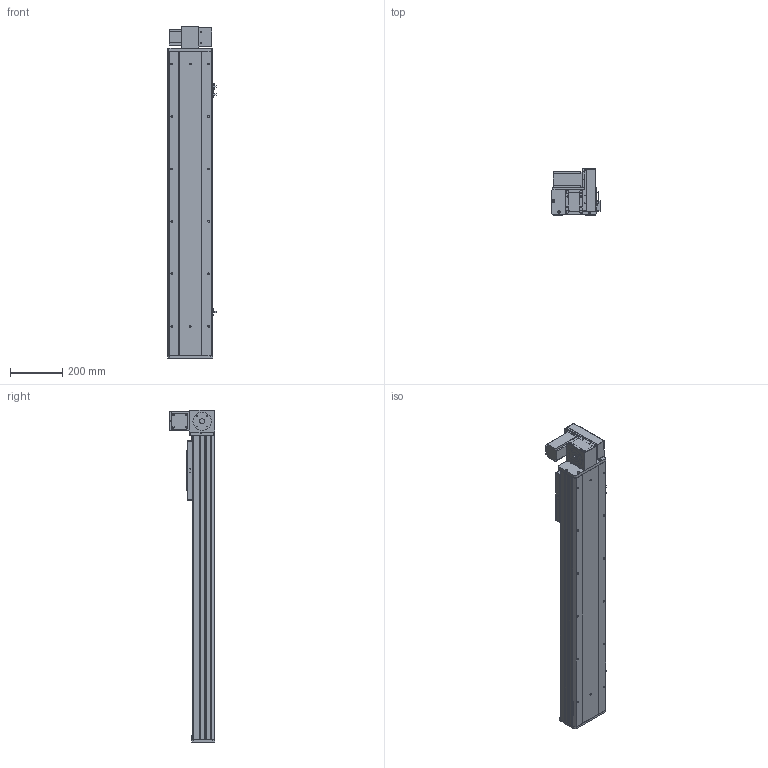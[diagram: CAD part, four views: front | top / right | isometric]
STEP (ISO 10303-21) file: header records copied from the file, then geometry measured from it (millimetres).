
FILE_DESCRIPTION (( 'STEP AP203' ), '1' );
FILE_NAME ('Y170CB-D105-S850-UR-P400W.STEP', '2020-02-20T04:01:09', ( '微软用户' ), ( '微软中国' ), 'SwSTEP 2.0', 'SolidWorks 2017', '' );
FILE_SCHEMA (( 'CONFIG_CONTROL_DESIGN' ));
Length unit declared in the file: millimetre
Products named in the file (18): 70B喘謫眊----; 70C-雄赽釱-奻-; B-源倛裔啣; Y170CB-D105-S850-UR-P400W; 0C--雄赽釱俋欶-170; 0B-萇儂楊擘啣; 70CB-詩湍--; san松下电机400不带刹车----; Y100-135俋离換覜ん--; 70CB-掛极-; Y170CB-陔俋离換覜結え---; --70CB --喘謫眊楊擘啣-; Y1埴倛裔; 70CB-耜裔啣-; 17B-耜蚾蟀諉啣----; 70C--詩湍揤踡え-; 00B-俋欶BM--163; 70CB--耜裔
Assembly tree (21 placements, depth 2):
  Y170CB-D105-S850-UR-P400W
    B-源倛裔啣
    0B-萇儂楊擘啣
    san松下电机400不带刹车----
    70CB-掛极-
    --70CB --喘謫眊楊擘啣-
    70CB-耜裔啣-  x2
    70C--詩湍揤踡え-  x2
    70CB--耜裔
    70C-雄赽釱-奻-
    0C--雄赽釱俋欶-170
    70CB-詩湍--
    Y100-135俋离換覜ん--  x3
    Y170CB-陔俋离換覜結え---
    Y1埴倛裔
    17B-耜蚾蟀諉啣----
    00B-俋欶BM--163
    70B喘謫眊----
Bounding box: 183.5 x 174 x 1266 mm (x, y, z)
Volume: 5949293.6 mm3; surface area: 2128611.2 mm2
Topology: 21 solids, 21 shells, 999 faces, 2669 edges, 1770 vertices
Faces by surface type: cylinder 513, plane 462, cone 24
Entity records: 31744 total; most frequent: CARTESIAN_POINT 5796, DIRECTION 5162, ORIENTED_EDGE 4820, EDGE_CURVE 2410, AXIS2_PLACEMENT_3D 1888, VERTEX_POINT 1600, VECTOR 1386, LINE 1386
